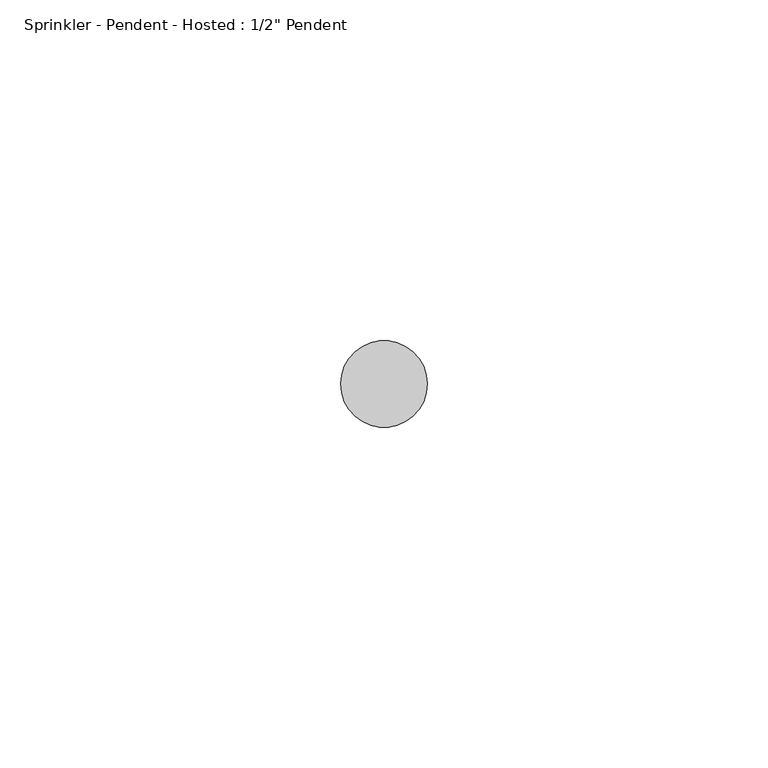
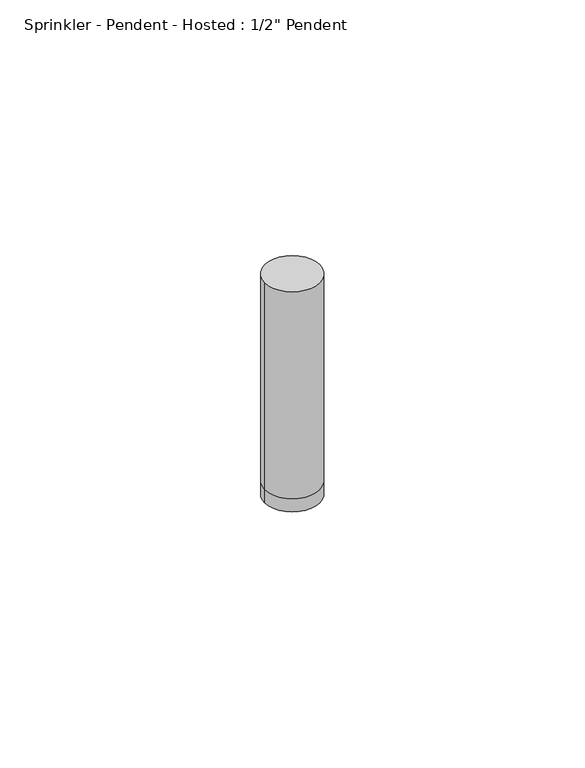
"""IFC4 building model written with IfcOpenShell, lengths in millimetres: fire suppression terminal geometry."""

from ifc_helpers import new_model, si_unit, frame, origin, origin_with_axes, place, context, project, spatial, circle_curve, source, transform, mapped, element, save
from ifc_brep_helpers import plane_surface, cylinder_surface, advanced_brep


def fire_suppression_terminal_ccbc3d6c(model_context):
    return source(origin(), model_context, "Body", "AdvancedBrep", [
        advanced_brep(
        [(-6.35, 0.0, 0.0), (6.35, 0.0, 0.0), (6.35, 0.0, 3.175), (-6.35, 0.0, 3.175), (-6.35, 0.0, 53.975), (6.35, 0.0, 53.975)],
        [
            (0, 1, circle_curve(frame((0.0, 0.0, 0.0), z_axis=(0.0, 0.0, -1.0), x_axis=(1.0, 0.0, 0.0)), 6.35)),
            (1, 0, circle_curve(frame((0.0, 0.0, 0.0), z_axis=(0.0, 0.0, -1.0), x_axis=(1.0, 0.0, 0.0)), 6.35)),
            (1, 2),
            (2, 3, circle_curve(frame((0.0, 0.0, 3.175), z_axis=(0.0, 0.0, -1.0), x_axis=(1.0, 0.0, 0.0)), 6.35)),
            (3, 0),
            (3, 2, circle_curve(frame((0.0, 0.0, 3.175), z_axis=(0.0, 0.0, -1.0), x_axis=(1.0, 0.0, 0.0)), 6.35)),
            (4, 5, circle_curve(frame((0.0, 0.0, 53.975), z_axis=(0.0, 0.0, 1.0), x_axis=(1.0, 0.0, 0.0)), 6.35)),
            (5, 4, circle_curve(frame((0.0, 0.0, 53.975), z_axis=(0.0, 0.0, 1.0), x_axis=(1.0, 0.0, 0.0)), 6.35)),
            (4, 3),
            (2, 5),
        ],
        [
            plane_surface(frame((6.35, 0.0, 0.0), z_axis=(0.0, 0.0, -1.0), x_axis=(0.0, -1.0, 0.0))),
            cylinder_surface(origin_with_axes(), 6.35),
            plane_surface(frame((6.35, 0.0, 53.975), z_axis=(0.0, 0.0, 1.0), x_axis=(0.0, 1.0, 0.0))),
        ],
        [
            (0, [[1, 2]]),
            (1, [[-2, 3, 4, 5]]),
            (1, [[-1, -5, 6, -3]]),
            (2, [[7, 8]]),
            (1, [[-7, 9, -4, 10]]),
            (1, [[-8, -10, -6, -9]]),
        ],
    ),
    ])


if __name__ == "__main__":
    model = new_model("IFC4")
    model_context = context("Model", 3, world=origin())
    ifc_project = project(units=[si_unit("LENGTHUNIT", "METRE", prefix="MILLI")], contexts=[model_context])
    site = spatial("IfcSite", under=ifc_project)
    building = spatial("IfcBuilding", under=site)
    placement = place(None, origin())
    fire_suppression_terminal_shape = fire_suppression_terminal_ccbc3d6c(model_context)
    element("IfcFireSuppressionTerminal", 1, ObjectType="Sprinkler - Pendent - Hosted : 1/2\" Pendent", at=placement, inside=building, context=model_context, shape_type="MappedRepresentation", body=[
        mapped(fire_suppression_terminal_shape, transform((0.0, 0.0, 0.0), x_axis=(1.0, 0.0, 0.0), y_axis=(0.0, 1.0, 0.0), z_axis=(0.0, 0.0, 1.0))),
    ])
    save(model, "model.ifc")
